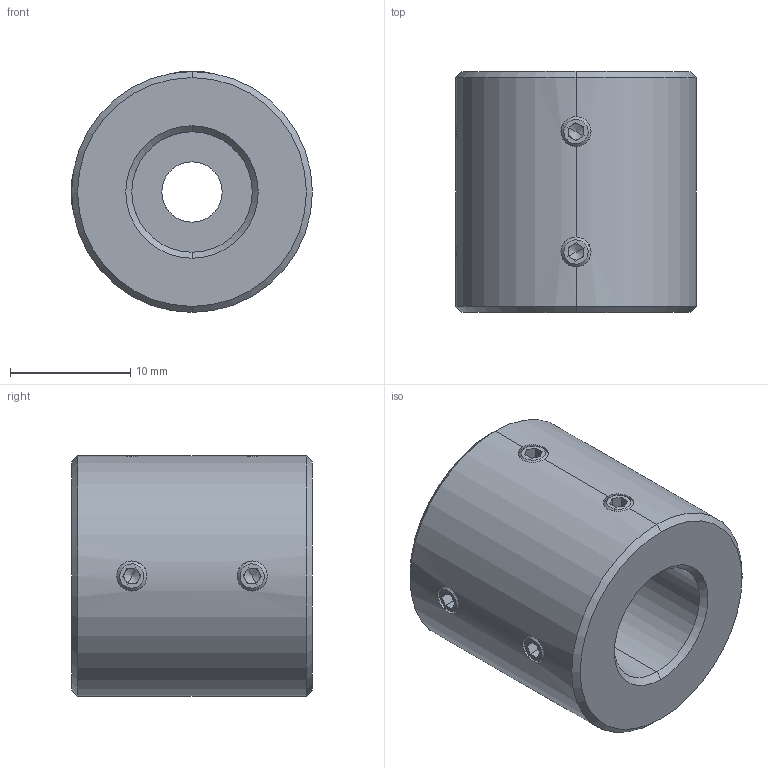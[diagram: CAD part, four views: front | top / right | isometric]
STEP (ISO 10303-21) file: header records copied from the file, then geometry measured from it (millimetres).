
FILE_DESCRIPTION (( 'STEP AP214' ), '1' );
FILE_NAME ('LL-D-D20L20-5-10.STEP', '2022-07-23T06:31:32', ( '' ), ( '' ), 'SwSTEP 2.0', 'SolidWorks 2022', '' );
FILE_SCHEMA (( 'AUTOMOTIVE_DESIGN' ));
Length unit declared in the file: millimetre
Products named in the file (1): LL-D-D20L20-5-10
Bounding box: 20 x 20 x 20 mm (x, y, z)
Volume: 5222.9 mm3; surface area: 2393 mm2
Topology: 1 solids, 1 shells, 113 faces, 286 edges, 176 vertices
Faces by surface type: plane 59, cone 32, cylinder 22
Entity records: 3646 total; most frequent: CARTESIAN_POINT 896, DIRECTION 582, ORIENTED_EDGE 556, EDGE_CURVE 278, AXIS2_PLACEMENT_3D 214, VERTEX_POINT 176, VECTOR 154, LINE 154
